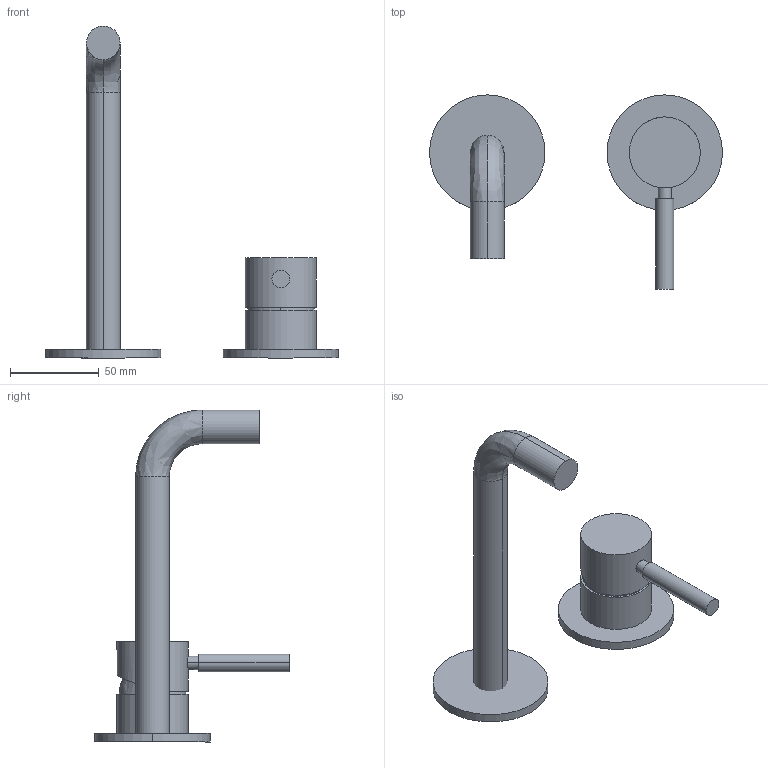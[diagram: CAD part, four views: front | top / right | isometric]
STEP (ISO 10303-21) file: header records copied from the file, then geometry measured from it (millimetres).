
FILE_DESCRIPTION(('FreeCAD Model'),'2;1');
FILE_NAME('Open CASCADE Shape Model','2024-07-23T14:39:19',('Author'),( ''),'Open CASCADE STEP processor 7.6','FreeCAD','Unknown');
FILE_SCHEMA(('AUTOMOTIVE_DESIGN { 1 0 10303 214 1 1 1 1 }'));
Length unit declared in the file: millimetre
Products named in the file (6): TopLevelAssembly; Wyciąganie001; Wyciągnięcie po ścieżce; Połączona geometria bryłowa; Wyciąganie004; Wyciąganie005
Assembly tree (5 placements, depth 2):
  TopLevelAssembly
    Wyciąganie001
    Wyciągnięcie po ścieżce
    Połączona geometria bryłowa
    Wyciąganie004
    Wyciąganie005
Bounding box: 165 x 109.5 x 187 mm (x, y, z)
Volume: 165310.1 mm3; surface area: 40549.1 mm2
Topology: 5 solids, 5 shells, 34 faces, 64 edges, 38 vertices
Faces by surface type: cylinder 16, plane 14, bspline 4
Entity records: 1050 total; most frequent: CARTESIAN_POINT 228, DIRECTION 170, ORIENTED_EDGE 120, AXIS2_PLACEMENT_3D 76, EDGE_CURVE 60, CIRCLE 39, VERTEX_POINT 38, FACE_BOUND 36
